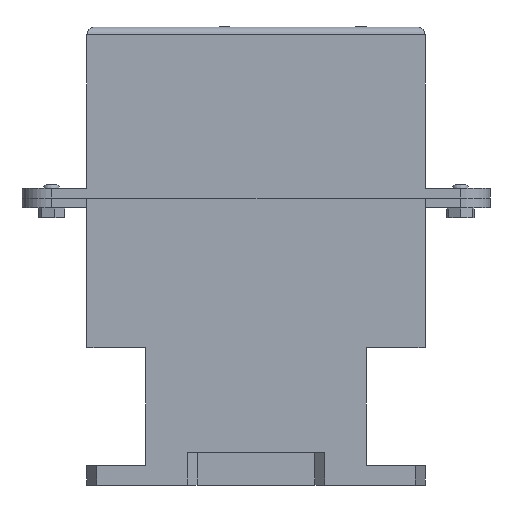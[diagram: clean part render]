
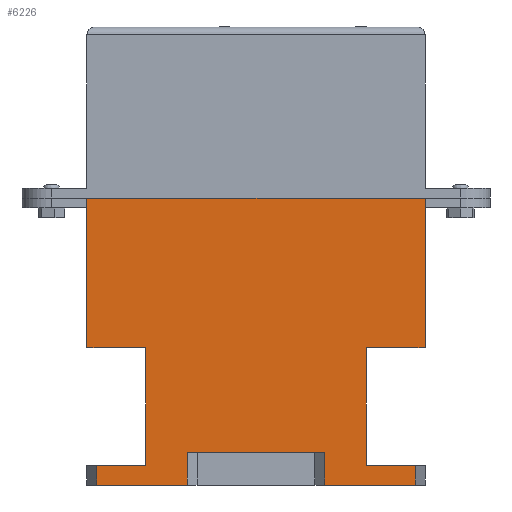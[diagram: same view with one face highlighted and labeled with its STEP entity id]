
A CAD part, left-side view. The second image highlights one B-rep face of the part: STEP entity #6226.
In plain terms, the highlighted planar face has unit normal (-1, 0, 0).
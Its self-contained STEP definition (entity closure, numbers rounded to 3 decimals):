
#614=FACE_OUTER_BOUND('',#975,.T.);
#975=EDGE_LOOP('',(#5171,#5172,#5173,#5174,#5175,#5176,#5177,#5178,#5179,
#5180,#5181,#5182,#5183,#5184,#5185,#5186));
#1475=LINE('',#10406,#2144);
#1479=LINE('',#10415,#2148);
#1483=LINE('',#10423,#2152);
#1507=LINE('',#10487,#2176);
#1531=LINE('',#10535,#2200);
#1534=LINE('',#10540,#2203);
#1535=LINE('',#10542,#2204);
#1538=LINE('',#10549,#2207);
#1548=LINE('',#10577,#2217);
#1549=LINE('',#10579,#2218);
#1550=LINE('',#10581,#2219);
#1551=LINE('',#10583,#2220);
#1552=LINE('',#10585,#2221);
#1553=LINE('',#10587,#2222);
#1554=LINE('',#10589,#2223);
#1555=LINE('',#10590,#2224);
#2144=VECTOR('',#7340,10.);
#2148=VECTOR('',#7348,10.);
#2152=VECTOR('',#7352,10.);
#2176=VECTOR('',#7394,10.);
#2200=VECTOR('',#7440,10.);
#2203=VECTOR('',#7445,10.);
#2204=VECTOR('',#7448,10.);
#2207=VECTOR('',#7455,10.);
#2217=VECTOR('',#7477,10.);
#2218=VECTOR('',#7478,10.);
#2219=VECTOR('',#7479,10.);
#2220=VECTOR('',#7480,10.);
#2221=VECTOR('',#7481,10.);
#2222=VECTOR('',#7482,10.);
#2223=VECTOR('',#7483,10.);
#2224=VECTOR('',#7484,10.);
#2801=VERTEX_POINT('',#10399);
#2804=VERTEX_POINT('',#10404);
#2807=VERTEX_POINT('',#10414);
#2810=VERTEX_POINT('',#10420);
#2811=VERTEX_POINT('',#10422);
#2842=VERTEX_POINT('',#10486);
#2855=VERTEX_POINT('',#10534);
#2856=VERTEX_POINT('',#10538);
#2858=VERTEX_POINT('',#10548);
#2870=VERTEX_POINT('',#10576);
#2871=VERTEX_POINT('',#10578);
#2872=VERTEX_POINT('',#10580);
#2873=VERTEX_POINT('',#10582);
#2874=VERTEX_POINT('',#10584);
#2875=VERTEX_POINT('',#10586);
#2876=VERTEX_POINT('',#10588);
#3593=EDGE_CURVE('',#2804,#2801,#1475,.T.);
#3597=EDGE_CURVE('',#2801,#2807,#1479,.T.);
#3601=EDGE_CURVE('',#2810,#2811,#1483,.T.);
#3633=EDGE_CURVE('',#2811,#2842,#1507,.T.);
#3657=EDGE_CURVE('',#2855,#2807,#1531,.T.);
#3660=EDGE_CURVE('',#2810,#2856,#1534,.T.);
#3661=EDGE_CURVE('',#2856,#2855,#1535,.T.);
#3664=EDGE_CURVE('',#2858,#2842,#1538,.T.);
#3678=EDGE_CURVE('',#2804,#2870,#1548,.T.);
#3679=EDGE_CURVE('',#2870,#2871,#1549,.T.);
#3680=EDGE_CURVE('',#2871,#2872,#1550,.T.);
#3681=EDGE_CURVE('',#2873,#2872,#1551,.T.);
#3682=EDGE_CURVE('',#2873,#2874,#1552,.T.);
#3683=EDGE_CURVE('',#2874,#2875,#1553,.T.);
#3684=EDGE_CURVE('',#2875,#2876,#1554,.T.);
#3685=EDGE_CURVE('',#2876,#2858,#1555,.T.);
#5171=ORIENTED_EDGE('',*,*,#3593,.F.);
#5172=ORIENTED_EDGE('',*,*,#3678,.T.);
#5173=ORIENTED_EDGE('',*,*,#3679,.T.);
#5174=ORIENTED_EDGE('',*,*,#3680,.T.);
#5175=ORIENTED_EDGE('',*,*,#3681,.F.);
#5176=ORIENTED_EDGE('',*,*,#3682,.T.);
#5177=ORIENTED_EDGE('',*,*,#3683,.T.);
#5178=ORIENTED_EDGE('',*,*,#3684,.T.);
#5179=ORIENTED_EDGE('',*,*,#3685,.T.);
#5180=ORIENTED_EDGE('',*,*,#3664,.T.);
#5181=ORIENTED_EDGE('',*,*,#3633,.F.);
#5182=ORIENTED_EDGE('',*,*,#3601,.F.);
#5183=ORIENTED_EDGE('',*,*,#3660,.T.);
#5184=ORIENTED_EDGE('',*,*,#3661,.T.);
#5185=ORIENTED_EDGE('',*,*,#3657,.T.);
#5186=ORIENTED_EDGE('',*,*,#3597,.F.);
#5879=PLANE('',#6530);
#6226=ADVANCED_FACE('',(#614),#5879,.T.);
#6530=AXIS2_PLACEMENT_3D('',#10575,#7475,#7476);
#7340=DIRECTION('',(0.,0.,-1.));
#7348=DIRECTION('',(0.,1.,0.));
#7352=DIRECTION('',(0.,1.,0.));
#7394=DIRECTION('',(0.,0.,1.));
#7440=DIRECTION('',(0.,0.,-1.));
#7445=DIRECTION('',(0.,0.,1.));
#7448=DIRECTION('',(0.,-1.,0.));
#7455=DIRECTION('',(0.,1.,0.));
#7475=DIRECTION('center_axis',(-1.,0.,0.));
#7476=DIRECTION('ref_axis',(0.,1.,0.));
#7477=DIRECTION('',(0.,1.,0.));
#7478=DIRECTION('',(0.,0.,1.));
#7479=DIRECTION('',(0.,-1.,0.));
#7480=DIRECTION('',(0.,0.,-1.));
#7481=DIRECTION('',(0.,1.,0.));
#7482=DIRECTION('',(0.,0.,-1.));
#7483=DIRECTION('',(0.,-1.,0.));
#7484=DIRECTION('',(0.,0.,-1.));
#10399=CARTESIAN_POINT('',(-10.,5.,-146.));
#10404=CARTESIAN_POINT('',(-10.,5.,-136.));
#10406=CARTESIAN_POINT('',(-10.,5.,0.));
#10414=CARTESIAN_POINT('',(-10.,51.,-146.));
#10415=CARTESIAN_POINT('',(-10.,0.,-146.));
#10420=CARTESIAN_POINT('',(-10.,121.,-146.));
#10422=CARTESIAN_POINT('',(-10.,167.,-146.));
#10423=CARTESIAN_POINT('',(-10.,0.,-146.));
#10486=CARTESIAN_POINT('',(-10.,167.,-136.));
#10487=CARTESIAN_POINT('',(-10.,167.,0.));
#10534=CARTESIAN_POINT('',(-10.,51.,-129.25));
#10535=CARTESIAN_POINT('',(-10.,51.,-73.));
#10538=CARTESIAN_POINT('',(-10.,121.,-129.25));
#10540=CARTESIAN_POINT('',(-10.,121.,-73.));
#10542=CARTESIAN_POINT('',(-10.,43.,-129.25));
#10548=CARTESIAN_POINT('',(-10.,142.,-136.));
#10549=CARTESIAN_POINT('',(-10.,71.,-136.));
#10575=CARTESIAN_POINT('Origin',(-10.,0.,0.));
#10576=CARTESIAN_POINT('',(-10.,30.,-136.));
#10577=CARTESIAN_POINT('',(-10.,0.,-136.));
#10578=CARTESIAN_POINT('',(-10.,30.,-76.));
#10579=CARTESIAN_POINT('',(-10.,30.,-68.));
#10580=CARTESIAN_POINT('',(-10.,0.,-76.));
#10581=CARTESIAN_POINT('',(-10.,15.,-76.));
#10582=CARTESIAN_POINT('',(-10.,0.,0.));
#10583=CARTESIAN_POINT('',(-10.,0.,0.));
#10584=CARTESIAN_POINT('',(-10.,172.,0.));
#10585=CARTESIAN_POINT('',(-10.,0.,0.));
#10586=CARTESIAN_POINT('',(-10.,172.,-76.));
#10587=CARTESIAN_POINT('',(-10.,172.,0.));
#10588=CARTESIAN_POINT('',(-10.,142.,-76.));
#10589=CARTESIAN_POINT('',(-10.,86.,-76.));
#10590=CARTESIAN_POINT('',(-10.,142.,-38.));
